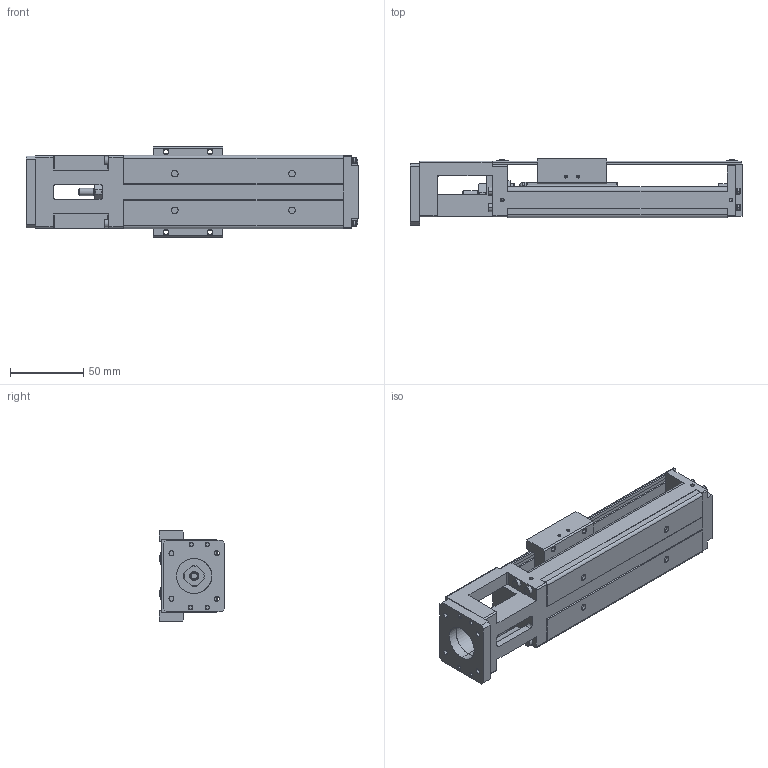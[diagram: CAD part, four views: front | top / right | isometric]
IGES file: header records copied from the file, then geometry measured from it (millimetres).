
Start section: SolidWorks IGES file using analytic representation for surfaces
Global section: file name: C:\Users\render\Documents\CAD Files\Integrated-Actuators\PA-Series\PA26\PA-26-150.IGS; native system: SolidWorks 2009; preprocessor: SolidWorks 2009; author: render; date: 100610.113244; units: millimetre
Bounding box: 226.5 x 45 x 62 mm (x, y, z)
Surface area: 97494.8 mm2 (no closed solid volume)
Topology: 0 solids, 0 shells, 738 faces, 9610 edges, 9568 vertices
Faces by surface type: revolution 411, bspline 327
